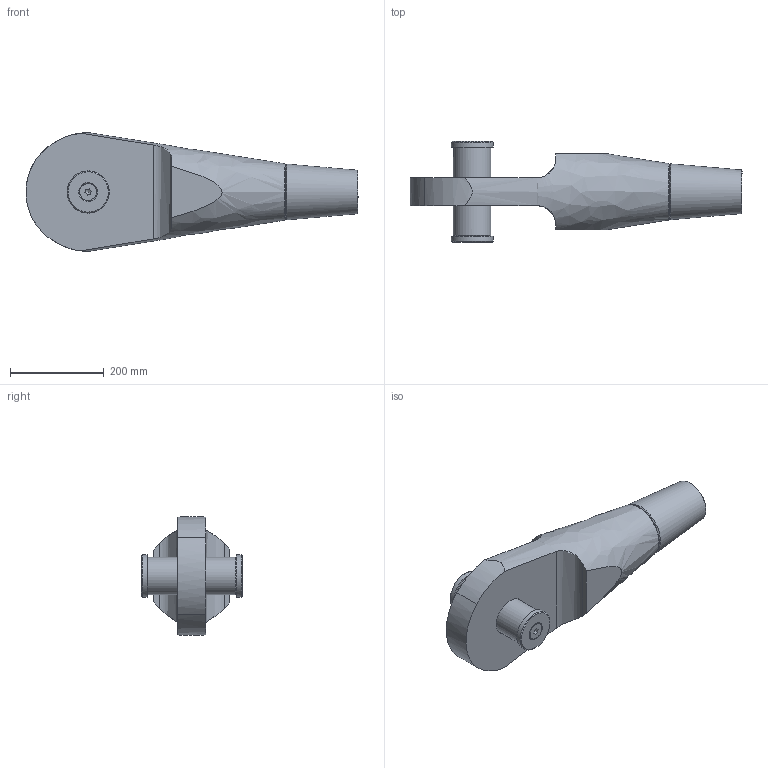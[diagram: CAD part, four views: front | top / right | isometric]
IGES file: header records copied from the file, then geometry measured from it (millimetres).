
Global section: file name: 520-080-OES; native system: Autodesk Inventor 2016; preprocessor: unknown; author: Administrator; date: 20200626.104010; units: centimetre
Bounding box: 709.86 x 216 x 253.68 mm (x, y, z)
Volume: 10432062.9 mm3; surface area: 477179.5 mm2
Topology: 2 solids, 4 shells, 49 faces, 120 edges, 82 vertices
Faces by surface type: bspline 49
